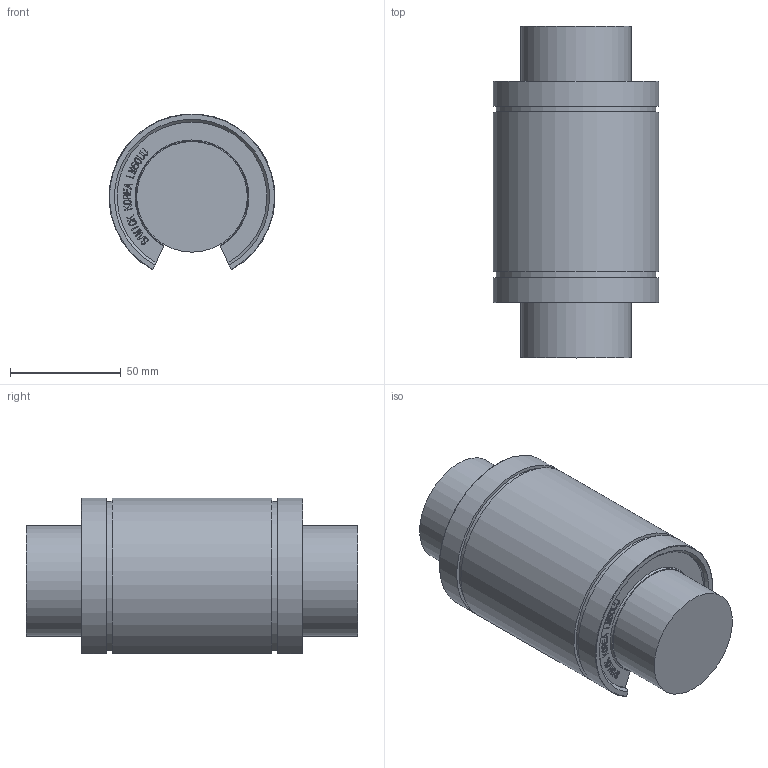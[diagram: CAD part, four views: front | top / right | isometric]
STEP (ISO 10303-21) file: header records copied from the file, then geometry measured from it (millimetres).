
FILE_DESCRIPTION((''),'2;1');
FILE_NAME('D:\STEP\EUROPE\UU\LME OP UU\LME50UUOP.stp','2013-02-05T19:16:46',('user2'),(''),'Autodesk Inventor 2012','Autodesk Inventor 2012','');
FILE_SCHEMA(('AUTOMOTIVE_DESIGN { 1 0 10303 214 1 1 1 1 }'));
Length unit declared in the file: millimetre
Products named in the file (1): LME50UUOP
Bounding box: 74.9 x 150 x 70.37 mm (x, y, z)
Volume: 492204.5 mm3; surface area: 43091.1 mm2
Topology: 1 solids, 1 shells, 842 faces, 2388 edges, 1592 vertices
Faces by surface type: bspline 600, plane 228, cylinder 8, cone 4, torus 2
Full cylindrical faces by diameter (mm): 50 x1
Entity records: 28791 total; most frequent: CARTESIAN_POINT 10261, ORIENTED_EDGE 4768, EDGE_CURVE 2384, DIRECTION 1688, VERTEX_POINT 1590, QUASI_UNIFORM_CURVE 1200, VECTOR 1150, LINE 1150
